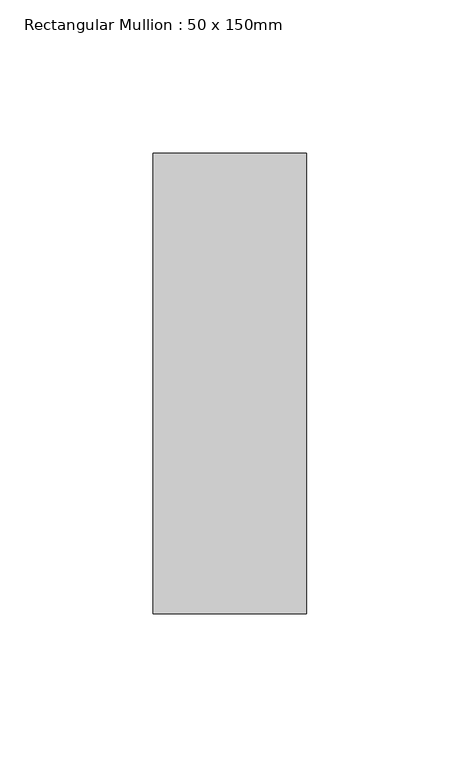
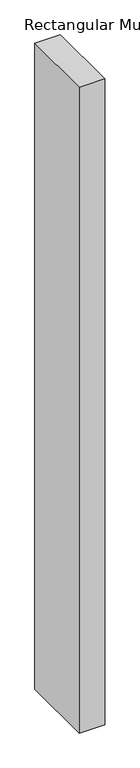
"""IFC4 building model written with IfcOpenShell, lengths in millimetres: member geometry, Rectangular Mullion : 50 x 150mm."""

from ifc_helpers import new_model, si_unit, frame, origin, place, context, project, spatial, polyline, outline, extrude, source, transform, mapped, element, save


def rectangular_mullion_50_x_150mm_9524d833(model_context):
    return source(origin(), model_context, "Body", "SweptSolid", [
        extrude(outline(polyline([(25.0, 75.0), (25.0, -75.0), (-25.0, -75.0), (-25.0, 75.0), (25.0, 75.0)])), frame((0.0, 0.0, -1334.9999999), z_axis=(0.0, 0.0, 1.0), x_axis=(1.0, 0.0, 0.0)), (0.0, 0.0, 1.0), 1334.9999999),
    ])


if __name__ == "__main__":
    model = new_model("IFC4")
    model_context = context("Model", 3, world=origin())
    ifc_project = project(units=[si_unit("LENGTHUNIT", "METRE", prefix="MILLI")], contexts=[model_context])
    site = spatial("IfcSite", under=ifc_project)
    building = spatial("IfcBuilding", under=site)
    placement = place(None, origin())
    rectangular_mullion_50_x_150mm_shape = rectangular_mullion_50_x_150mm_9524d833(model_context)
    element("IfcMember", 1, ObjectType="Rectangular Mullion : 50 x 150mm", at=placement, inside=building, context=model_context, shape_type="MappedRepresentation", body=[
        mapped(rectangular_mullion_50_x_150mm_shape, transform((0.0, 0.0, 0.0), x_axis=(1.0, 0.0, 0.0), y_axis=(0.0, 1.0, 0.0), z_axis=(0.0, 0.0, 1.0))),
    ])
    save(model, "model.ifc")
